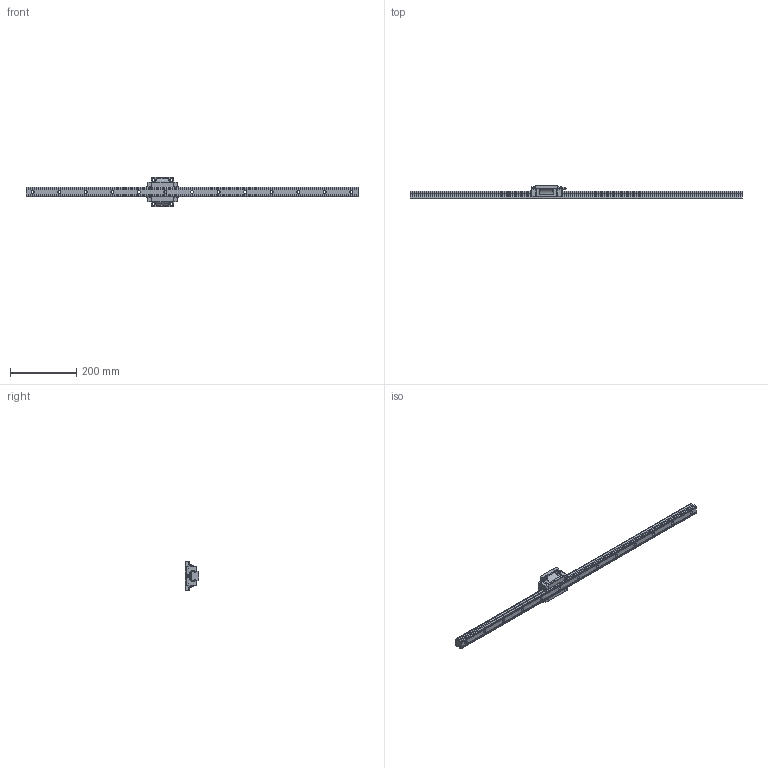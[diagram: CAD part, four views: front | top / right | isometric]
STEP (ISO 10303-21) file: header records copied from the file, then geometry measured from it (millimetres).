
FILE_DESCRIPTION (( 'STEP AP214' ), '1' );
FILE_NAME ('EGH30F.STEP', '2021-07-05T06:53:48', ( '' ), ( '' ), 'SwSTEP 2.0', 'SolidWorks 2019', '' );
FILE_SCHEMA (( 'AUTOMOTIVE_DESIGN' ));
Length unit declared in the file: millimetre
Products named in the file (4): EGH30F; EGH30Fキャリッジ; EG30レール; M6グリースニップル
Assembly tree (3 placements, depth 2):
  EGH30F
    EG30レール
    EGH30Fキャリッジ
    M6グリースニップル
Bounding box: 1000 x 42 x 90 mm (x, y, z)
Volume: 716055.4 mm3; surface area: 155514.4 mm2
Topology: 7 solids, 7 shells, 553 faces, 1531 edges, 1011 vertices
Faces by surface type: plane 365, cylinder 164, cone 20, torus 3, sphere 1
Full cylindrical faces by diameter (mm): 6 x1, 7.75 x1, 8 x1, 9 x13, 14 x13
Entity records: 23178 total; most frequent: CARTESIAN_POINT 3334, ORIENTED_EDGE 2984, DIRECTION 2932, EDGE_CURVE 1492, VECTOR 1112, LINE 1112, VERTEX_POINT 1007, AXIS2_PLACEMENT_3D 910
